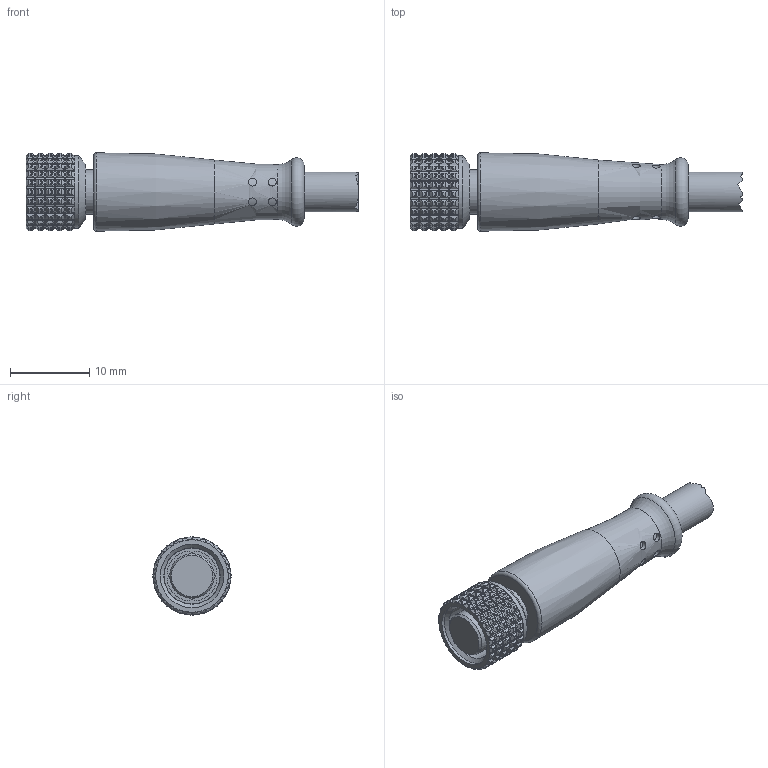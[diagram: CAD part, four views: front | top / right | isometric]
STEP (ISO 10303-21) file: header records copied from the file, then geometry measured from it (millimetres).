
FILE_DESCRIPTION((''),'2;1');
FILE_NAME('C:\Users\enrico\Desktop\Ale\Sito\FOTO AUTOMAZIONE_2020\Connettori circolari per sensori e attuatori\Singola testa\M8 Fe ass.stp','2020-06-15T14:39:42',('Tecnico2'),(''),'Autodesk Inventor 2012','Autodesk Inventor 2012','');
FILE_SCHEMA(('AUTOMOTIVE_DESIGN { 1 0 10303 214 1 1 1 1 }'));
Length unit declared in the file: millimetre
Products named in the file (3): C08F3A1; ghiera M8
Assembly tree (2 placements, depth 2):
  C08F3A1
    C08F3A1
    ghiera M8
Bounding box: 41.78 x 9.86 x 9.86 mm (x, y, z)
Volume: 2068.5 mm3; surface area: 1584 mm2
Topology: 2 solids, 2 shells, 2321 faces, 5693 edges, 3347 vertices
Faces by surface type: bspline 501, sphere 500, cylinder 409, plane 394, torus 263, cone 254
Full cylindrical faces by diameter (mm): 1 x8, 5.001 x1, 5.6 x1, 7.1 x1, 7.4 x1, 8 x1, 9.1 x5
Entity records: 82301 total; most frequent: CARTESIAN_POINT 34032, ORIENTED_EDGE 11238, DIRECTION 9078, EDGE_CURVE 5619, AXIS2_PLACEMENT_3D 4150, VERTEX_POINT 3341, EDGE_LOOP 2362, FACE_OUTER_BOUND 2321
